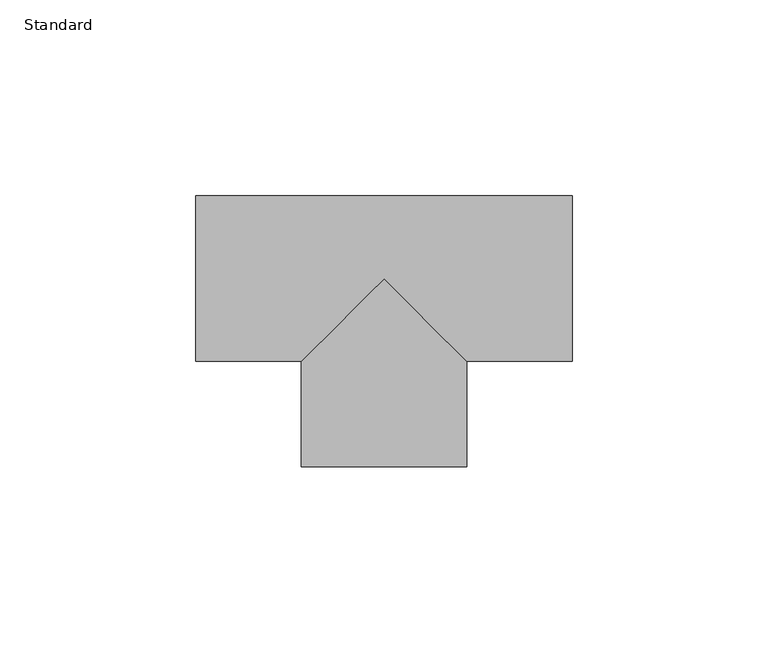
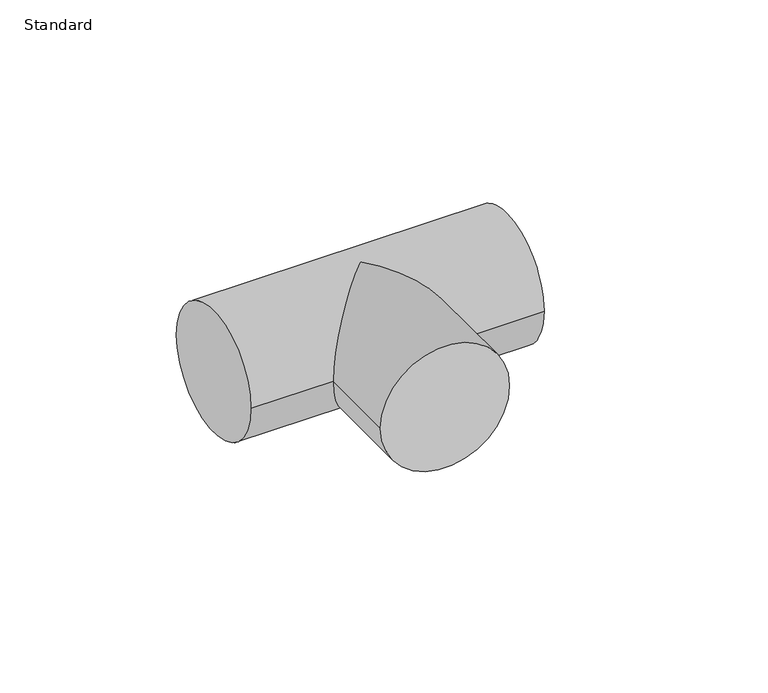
"""IFC4 building model written with IfcOpenShell, lengths in millimetres: pipe fitting geometry, Té - Générique : Standard."""

from ifc_helpers import new_model, si_unit, frame, origin, place, context, project, spatial, circle_curve, ellipse_curve, source, transform, mapped, element, save
from ifc_brep_helpers import plane_surface, cylinder_surface, advanced_brep


def standard_92dc9eea(model_context):
    return source(origin(), model_context, "Body", "AdvancedBrep", [
        advanced_brep(
        [(-48.0, -21.1, 0.0), (-48.0, 21.1, 0.0), (48.0, -21.1, 0.0), (48.0, 21.1, 0.0), (-21.0983186, -21.1, 0.0), (0.0, 0.0, 21.1), (21.1016815, -21.1, 0.0), (0.0, 0.0, -21.1), (-21.0961749, -48.0016813, 0.0), (21.103825, -47.9983184, 0.0)],
        [
            (0, 1, circle_curve(frame((-48.0, 0.0, 0.0), z_axis=(-1.0, 0.0, 0.0), x_axis=(0.0, 1.0, 0.0)), 21.1)),
            (1, 0, circle_curve(frame((-48.0, 0.0, 0.0), z_axis=(-1.0, 0.0, 0.0), x_axis=(0.0, 1.0, 0.0)), 21.1)),
            (2, 3, circle_curve(frame((48.0, 0.0, 0.0), z_axis=(1.0, 0.0, 0.0), x_axis=(0.0, 1.0, 0.0)), 21.1)),
            (3, 2, circle_curve(frame((48.0, 0.0, 0.0), z_axis=(1.0, 0.0, 0.0), x_axis=(0.0, 1.0, 0.0)), 21.1)),
            (0, 4),
            (4, 5, ellipse_curve(frame((0.0, 0.0, 0.0), z_axis=(-0.7071349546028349, 0.7070786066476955, 0.0), x_axis=(-0.7070786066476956, -0.7071349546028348, 0.0)), 29.8387173, 21.1)),
            (5, 6, ellipse_curve(frame((0.0, 0.0, 0.0), z_axis=(0.7070786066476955, 0.707134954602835, 0.0), x_axis=(-0.7071349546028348, 0.7070786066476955, 0.0)), 29.8410952, 21.1)),
            (6, 2),
            (3, 1),
            (6, 7, ellipse_curve(frame((0.0, 0.0, 0.0), z_axis=(0.7070786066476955, 0.707134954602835, 0.0), x_axis=(-0.7071349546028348, 0.7070786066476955, 0.0)), 29.8410952, 21.1)),
            (7, 4, ellipse_curve(frame((0.0, 0.0, 0.0), z_axis=(-0.7071349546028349, 0.7070786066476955, 0.0), x_axis=(-0.7070786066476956, -0.7071349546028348, 0.0)), 29.8387173, 21.1)),
            (8, 9, circle_curve(frame((0.003825, -47.9999998, 0.0), z_axis=(7.968804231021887e-05, -0.999999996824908, 0.0), x_axis=(0.999999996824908, 7.968804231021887e-05, 0.0)), 21.1)),
            (9, 8, circle_curve(frame((0.003825, -47.9999998, 0.0), z_axis=(7.968804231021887e-05, -0.999999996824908, 0.0), x_axis=(0.999999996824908, 7.968804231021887e-05, 0.0)), 21.1)),
            (9, 6),
            (4, 8),
        ],
        [
            plane_surface(frame((-48.0, 0.0, 0.0), z_axis=(-1.0, 0.0, 0.0), x_axis=(0.0, 0.0, 1.0))),
            plane_surface(frame((48.0, 0.0, 0.0), z_axis=(1.0, 0.0, 0.0), x_axis=(0.0, 0.0, 1.0))),
            cylinder_surface(frame((-48.0, 0.0, 0.0), z_axis=(-1.0, 0.0, 0.0), x_axis=(0.0, 1.0, 0.0)), 21.1),
            plane_surface(frame((0.003825, -47.9999998, 0.0), z_axis=(7.968804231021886e-05, -0.999999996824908, 0.0), x_axis=(0.0, 0.0, 1.0))),
            cylinder_surface(frame((0.0, 0.0, 0.0), z_axis=(-7.968804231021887e-05, 0.999999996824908, 0.0), x_axis=(0.999999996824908, 7.968804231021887e-05, 0.0)), 21.1),
        ],
        [
            (0, [[1, 2]]),
            (1, [[3, 4]]),
            (2, [[-1, 5, 6, 7, 8, -4, 9]]),
            (2, [[-2, -9, -3, -8, 10, 11, -5]]),
            (3, [[12, 13]]),
            (4, [[-13, 14, -7, -6, 15]]),
            (4, [[-12, -15, -11, -10, -14]]),
        ],
    ),
    ])


if __name__ == "__main__":
    model = new_model("IFC4")
    model_context = context("Model", 3, world=origin())
    ifc_project = project(units=[si_unit("LENGTHUNIT", "METRE", prefix="MILLI")], contexts=[model_context])
    site = spatial("IfcSite", under=ifc_project)
    building = spatial("IfcBuilding", under=site)
    placement = place(None, origin())
    standard_shape = standard_92dc9eea(model_context)
    element("IfcPipeFitting", 1, ObjectType="Té - Générique : Standard", at=placement, inside=building, context=model_context, shape_type="MappedRepresentation", body=[
        mapped(standard_shape, transform((0.0, 0.0, 0.0), x_axis=(1.0, 0.0, 0.0), y_axis=(0.0, 1.0, 0.0), z_axis=(0.0, 0.0, 1.0))),
    ])
    save(model, "model.ifc")
